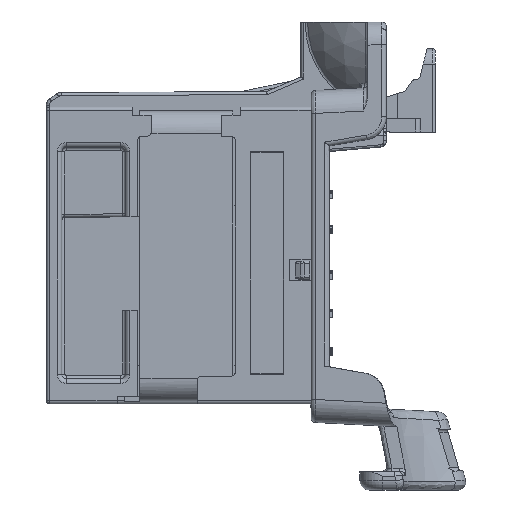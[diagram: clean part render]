
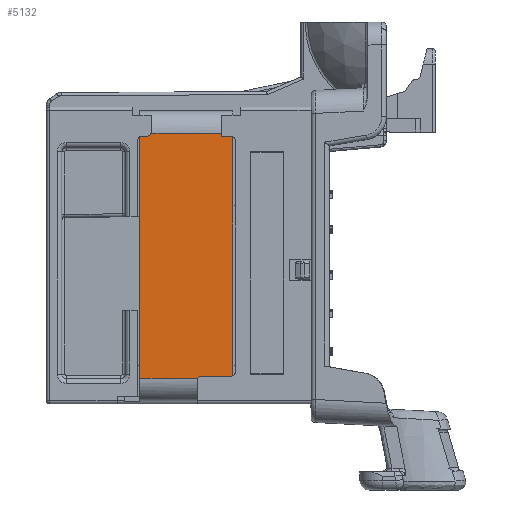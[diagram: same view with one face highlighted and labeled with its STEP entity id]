
A CAD part, left-side view. The second image highlights one B-rep face of the part: STEP entity #5132.
In plain terms, the highlighted planar face has unit normal (-1, 0, 0).
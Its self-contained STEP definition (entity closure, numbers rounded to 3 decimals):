
#5132=ADVANCED_FACE('',(#10117),#7466,.F.);
#7466=PLANE('',#59931);
#10117=FACE_OUTER_BOUND('',#13239,.T.);
#13239=EDGE_LOOP('',(#35932,#35933,#35934,#35935,#35936,#35937,#35938,#35939,
#35940,#35941,#35942,#35943,#35944));
#18438=LINE('',#105073,#24412);
#18440=LINE('',#105079,#24414);
#18446=LINE('',#105089,#24420);
#18497=LINE('',#107482,#24471);
#18498=LINE('',#107486,#24472);
#18501=LINE('',#107506,#24475);
#18567=LINE('',#109549,#24541);
#18583=LINE('',#109704,#24557);
#24412=VECTOR('',#69941,1.);
#24414=VECTOR('',#69947,1.);
#24420=VECTOR('',#69957,1.);
#24471=VECTOR('',#70148,1.);
#24472=VECTOR('',#70155,1.);
#24475=VECTOR('',#70164,1.);
#24541=VECTOR('',#70382,1.);
#24557=VECTOR('',#70430,1.);
#35932=ORIENTED_EDGE('',*,*,#53927,.T.);
#35933=ORIENTED_EDGE('',*,*,#53944,.F.);
#35934=ORIENTED_EDGE('',*,*,#54047,.F.);
#35935=ORIENTED_EDGE('',*,*,#52578,.F.);
#35936=ORIENTED_EDGE('',*,*,#53803,.F.);
#35937=ORIENTED_EDGE('',*,*,#53455,.T.);
#35938=ORIENTED_EDGE('',*,*,#53919,.T.);
#35939=ORIENTED_EDGE('',*,*,#54029,.F.);
#35940=ORIENTED_EDGE('',*,*,#53921,.T.);
#35941=ORIENTED_EDGE('',*,*,#53901,.F.);
#35942=ORIENTED_EDGE('',*,*,#53812,.T.);
#35943=ORIENTED_EDGE('',*,*,#53317,.F.);
#35944=ORIENTED_EDGE('',*,*,#53806,.F.);
#46029=VERTEX_POINT('',#90960);
#46030=VERTEX_POINT('',#90962);
#46523=VERTEX_POINT('',#98565);
#46524=VERTEX_POINT('',#98566);
#46624=VERTEX_POINT('',#99529);
#46626=VERTEX_POINT('',#99532);
#46787=VERTEX_POINT('',#105078);
#46790=VERTEX_POINT('',#105090);
#46824=VERTEX_POINT('',#107121);
#46825=VERTEX_POINT('',#107481);
#46826=VERTEX_POINT('',#107487);
#46829=VERTEX_POINT('',#107505);
#46835=VERTEX_POINT('',#107854);
#52578=EDGE_CURVE('',#46029,#46030,#57013,.T.);
#53317=EDGE_CURVE('',#46523,#46524,#57062,.T.);
#53455=EDGE_CURVE('',#46626,#46624,#57094,.T.);
#53803=EDGE_CURVE('',#46626,#46029,#18438,.T.);
#53806=EDGE_CURVE('',#46787,#46523,#18440,.T.);
#53812=EDGE_CURVE('',#46790,#46524,#18446,.T.);
#53901=EDGE_CURVE('',#46790,#46824,#57142,.T.);
#53919=EDGE_CURVE('',#46624,#46825,#18497,.T.);
#53921=EDGE_CURVE('',#46826,#46824,#18498,.T.);
#53927=EDGE_CURVE('',#46787,#46829,#18501,.T.);
#53944=EDGE_CURVE('',#46835,#46829,#57156,.T.);
#54029=EDGE_CURVE('',#46826,#46825,#18567,.T.);
#54047=EDGE_CURVE('',#46030,#46835,#18583,.T.);
#57013=CIRCLE('',#59248,0.3);
#57062=CIRCLE('',#59545,0.3);
#57094=CIRCLE('',#59611,0.3);
#57142=CIRCLE('',#59817,0.3);
#57156=CIRCLE('',#59851,0.3);
#59248=AXIS2_PLACEMENT_3D('',#90961,#68208,#68209);
#59545=AXIS2_PLACEMENT_3D('',#98564,#69258,#69259);
#59611=AXIS2_PLACEMENT_3D('',#99531,#69468,#69469);
#59817=AXIS2_PLACEMENT_3D('',#107120,#70112,#70113);
#59851=AXIS2_PLACEMENT_3D('',#107855,#70197,#70198);
#59931=AXIS2_PLACEMENT_3D('',#109705,#70431,#70432);
#68208=DIRECTION('',(1.,0.,0.));
#68209=DIRECTION('',(0.,0.,1.));
#69258=DIRECTION('',(1.,0.,0.));
#69259=DIRECTION('',(0.,0.,1.));
#69468=DIRECTION('',(-1.,0.,0.));
#69469=DIRECTION('',(0.,0.,-1.));
#69941=DIRECTION('',(0.,0.,-1.));
#69947=DIRECTION('',(0.,0.,1.));
#69957=DIRECTION('',(0.,1.,0.));
#70112=DIRECTION('',(-1.,0.,0.));
#70113=DIRECTION('',(0.,1.,0.));
#70148=DIRECTION('',(0.,1.,0.));
#70155=DIRECTION('',(0.,1.,0.));
#70164=DIRECTION('',(0.,-1.,0.));
#70197=DIRECTION('',(-1.,0.,0.));
#70198=DIRECTION('',(0.,1.,0.));
#70382=DIRECTION('',(0.,0.,-1.));
#70430=DIRECTION('',(0.,1.,0.));
#70431=DIRECTION('',(1.,0.,0.));
#70432=DIRECTION('',(0.,0.,-1.));
#90960=CARTESIAN_POINT('',(-9.201,6.307,1.237));
#90961=CARTESIAN_POINT('',(-9.201,6.457,1.497));
#90962=CARTESIAN_POINT('',(-9.201,6.457,1.197));
#98564=CARTESIAN_POINT('',(-9.201,12.242,16.582));
#98565=CARTESIAN_POINT('',(-9.201,12.392,16.842));
#98566=CARTESIAN_POINT('',(-9.201,12.242,16.882));
#99529=CARTESIAN_POINT('',(-9.201,6.457,16.882));
#99531=CARTESIAN_POINT('',(-9.201,6.457,16.582));
#99532=CARTESIAN_POINT('',(-9.201,6.307,16.842));
#105073=CARTESIAN_POINT('',(-9.201,6.307,16.604));
#105078=CARTESIAN_POINT('',(-9.201,12.392,1.027));
#105079=CARTESIAN_POINT('',(-9.201,12.392,5.057));
#105089=CARTESIAN_POINT('',(-9.201,11.256,16.882));
#105090=CARTESIAN_POINT('',(-9.201,11.942,16.882));
#107120=CARTESIAN_POINT('',(-9.201,11.942,17.182));
#107121=CARTESIAN_POINT('',(-9.201,11.669,17.058));
#107481=CARTESIAN_POINT('',(-9.201,7.057,16.882));
#107482=CARTESIAN_POINT('',(-9.201,11.256,16.882));
#107486=CARTESIAN_POINT('',(-9.201,11.256,17.058));
#107487=CARTESIAN_POINT('',(-9.201,7.057,17.058));
#107505=CARTESIAN_POINT('',(-9.201,8.628,1.027));
#107506=CARTESIAN_POINT('',(-9.201,11.256,1.027));
#107854=CARTESIAN_POINT('',(-9.201,8.357,1.197));
#107855=CARTESIAN_POINT('',(-9.201,8.357,0.897));
#109549=CARTESIAN_POINT('',(-9.201,7.057,5.057));
#109704=CARTESIAN_POINT('',(-9.201,11.256,1.197));
#109705=CARTESIAN_POINT('',(-9.201,6.307,18.558));
